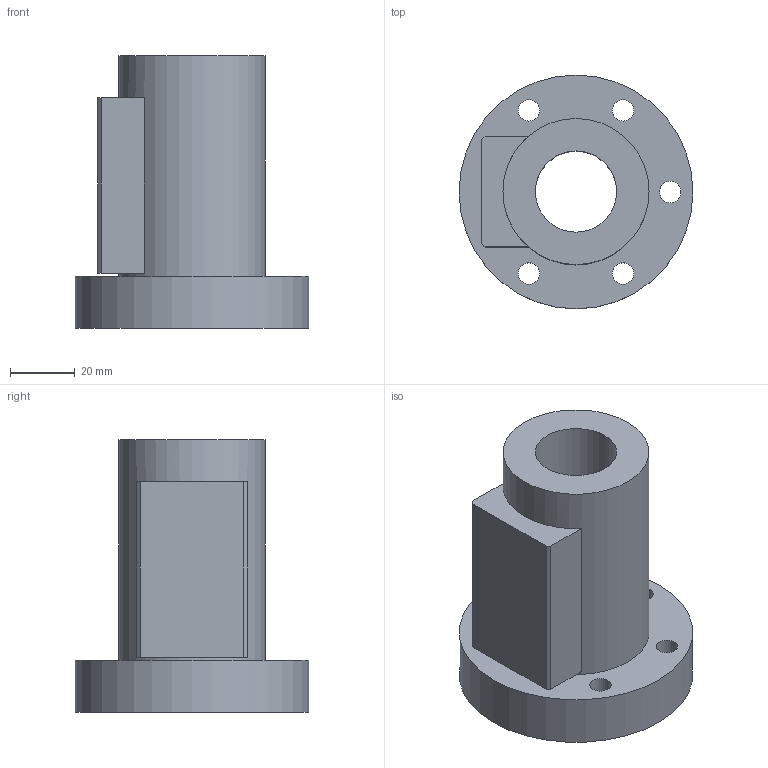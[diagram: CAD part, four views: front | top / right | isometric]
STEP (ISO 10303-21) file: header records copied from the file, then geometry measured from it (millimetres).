
FILE_DESCRIPTION(/* description */ (''),/* implementation_level */ '2;1');
FILE_NAME(/* name */ '25-16B1',/* time_stamp */ '2006-07-31T10:02:47+08:00',/* author */ (''),/* organization */ (''),/* preprocessor_version */ 'ST-DEVELOPER v9',/* originating_system */ 'UGS - NX 4.0',/* authorisation */ '');
FILE_SCHEMA (('CONFIG_CONTROL_DESIGN'));
Length unit declared in the file: millimetre
Products named in the file (1): 25-16B1
Bounding box: 72 x 72 x 84 mm (x, y, z)
Volume: 143591 mm3; surface area: 30590.1 mm2
Topology: 1 solids, 1 shells, 28 faces, 61 edges, 42 vertices
Faces by surface type: plane 15, cylinder 13
Full cylindrical faces by diameter (mm): 6.6 x5, 11 x5, 25 x1, 45 x1, 72 x1
Entity records: 794 total; most frequent: DIRECTION 130, CARTESIAN_POINT 111, ORIENTED_EDGE 88, EDGE_LOOP 60, AXIS2_PLACEMENT_3D 57, FACE_BOUND 45, EDGE_CURVE 44, VERTEX_POINT 38
